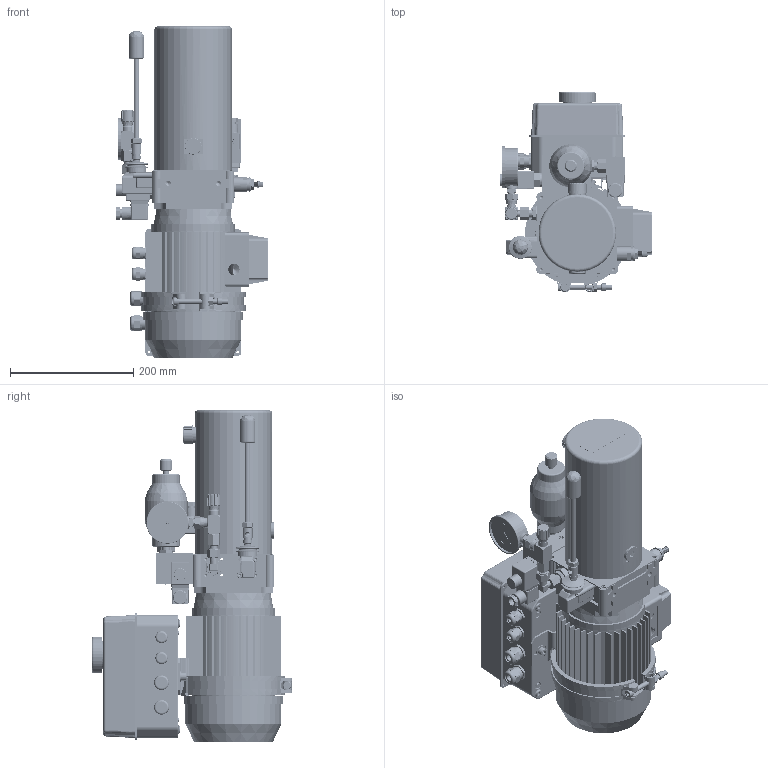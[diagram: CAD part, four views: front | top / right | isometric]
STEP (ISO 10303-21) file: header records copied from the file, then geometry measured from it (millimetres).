
FILE_DESCRIPTION((''),'2;1');
FILE_NAME('HTP3_ASM','2021-11-01T',('BOLS'),(''),'CREO PARAMETRIC BY PTC INC, 2018360','CREO PARAMETRIC BY PTC INC, 2018360','');
FILE_SCHEMA(('CONFIG_CONTROL_DESIGN'));
Length unit declared in the file: millimetre
Products named in the file (1): HTP3_ASM
Bounding box: 248.1 x 326.11 x 539.5 mm (x, y, z)
Surface area: 1456959.6 mm2 (no closed solid volume)
Topology: 0 solids, 131 shells, 6564 faces, 16482 edges, 10245 vertices
Faces by surface type: plane 2224, cylinder 1804, cone 1559, torus 852, bspline 80, sphere 37, revolution 8
Entity records: 259638 total; most frequent: CARTESIAN_POINT 50398, DIRECTION 34971, ORIENTED_EDGE 32589, PRESENTATION_STYLE_ASSIGNMENT 16503, STYLED_ITEM 16503, CURVE_STYLE 16372, EDGE_CURVE 16372, AXIS2_PLACEMENT_3D 13899
